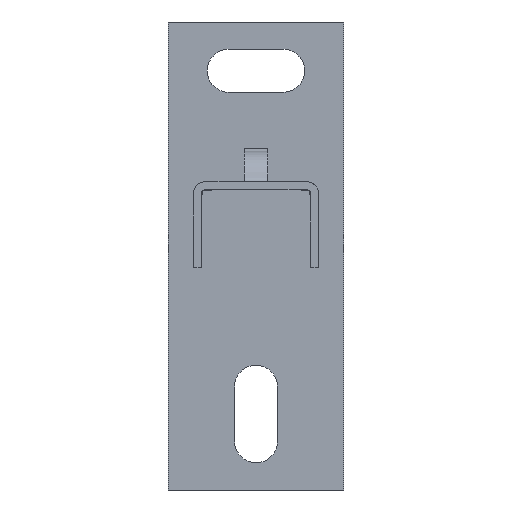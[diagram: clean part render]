
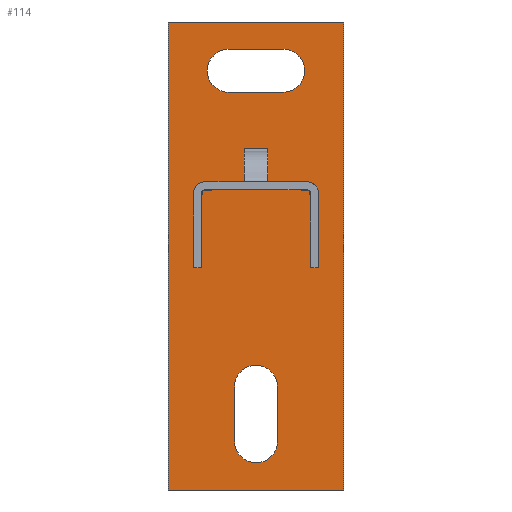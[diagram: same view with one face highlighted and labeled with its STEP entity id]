
A CAD part, front view. The second image highlights one B-rep face of the part: STEP entity #114.
In plain terms, the highlighted planar face has unit normal (0, -1, 0).
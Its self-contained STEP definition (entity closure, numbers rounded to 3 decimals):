
#15=FACE_BOUND($,#223,.T.);
#16=FACE_BOUND($,#224,.T.);
#23=PLANE($,#918);
#114=ADVANCED_FACE($,(#166,#15,#16),#23,.T.);
#166=FACE_OUTER_BOUND($,#222,.T.);
#222=EDGE_LOOP($,(#452,#453,#454,#455));
#223=EDGE_LOOP($,(#456,#457));
#224=EDGE_LOOP($,(#458,#459));
#452=ORIENTED_EDGE($,*,*,#608,.T.);
#453=ORIENTED_EDGE($,*,*,#619,.T.);
#454=ORIENTED_EDGE($,*,*,#618,.T.);
#455=ORIENTED_EDGE($,*,*,#617,.T.);
#456=ORIENTED_EDGE($,*,*,#609,.T.);
#457=ORIENTED_EDGE($,*,*,#627,.T.);
#458=ORIENTED_EDGE($,*,*,#610,.T.);
#459=ORIENTED_EDGE($,*,*,#630,.T.);
#608=EDGE_CURVE($,#704,#712,#806,.T.);
#609=EDGE_CURVE($,#705,#716,#886,.T.);
#610=EDGE_CURVE($,#706,#718,#887,.T.);
#617=EDGE_CURVE($,#710,#704,#811,.T.);
#618=EDGE_CURVE($,#711,#710,#812,.T.);
#619=EDGE_CURVE($,#712,#711,#813,.T.);
#627=EDGE_CURVE($,#716,#705,#890,.T.);
#630=EDGE_CURVE($,#718,#706,#892,.T.);
#704=VERTEX_POINT($,#2506);
#705=VERTEX_POINT($,#2507);
#706=VERTEX_POINT($,#2508);
#710=VERTEX_POINT($,#2512);
#711=VERTEX_POINT($,#2513);
#712=VERTEX_POINT($,#2514);
#716=VERTEX_POINT($,#2518);
#718=VERTEX_POINT($,#2520);
#806=B_SPLINE_CURVE_WITH_KNOTS($,1,(#2356,#2357),.UNSPECIFIED.,.F.,.F.,(2,
2),(0.,45.),.UNSPECIFIED.);
#811=B_SPLINE_CURVE_WITH_KNOTS($,1,(#2394,#2395),.UNSPECIFIED.,.F.,.F.,(2,
2),(210.,330.),.UNSPECIFIED.);
#812=B_SPLINE_CURVE_WITH_KNOTS($,1,(#2396,#2397),.UNSPECIFIED.,.F.,.F.,(2,
2),(165.,210.),.UNSPECIFIED.);
#813=B_SPLINE_CURVE_WITH_KNOTS($,1,(#2398,#2399),.UNSPECIFIED.,.F.,.F.,(2,
2),(45.,165.),.UNSPECIFIED.);
#886=(
BOUNDED_CURVE()
B_SPLINE_CURVE(2,(#2358,#2359,#2360,#2361,#2362,#2363,#2364),.UNSPECIFIED.,
.F.,.F.)
B_SPLINE_CURVE_WITH_KNOTS((3,2,2,3),(-111.115,-97.115,
-88.476,-79.836),.UNSPECIFIED.)
CURVE()
GEOMETRIC_REPRESENTATION_ITEM()
RATIONAL_B_SPLINE_CURVE((1.,1.,1.,0.707,1.,0.707,
1.))
REPRESENTATION_ITEM($)
);
#887=(
BOUNDED_CURVE()
B_SPLINE_CURVE(2,(#2365,#2366,#2367,#2368,#2369,#2370,#2371),.UNSPECIFIED.,
.F.,.F.)
B_SPLINE_CURVE_WITH_KNOTS((3,2,2,3),(-111.115,-97.115,
-88.476,-79.836),.UNSPECIFIED.)
CURVE()
GEOMETRIC_REPRESENTATION_ITEM()
RATIONAL_B_SPLINE_CURVE((1.,1.,1.,0.707,1.,0.707,
1.))
REPRESENTATION_ITEM($)
);
#890=(
BOUNDED_CURVE()
B_SPLINE_CURVE(2,(#2414,#2415,#2416,#2417,#2418,#2419,#2420),.UNSPECIFIED.,
.F.,.F.)
B_SPLINE_CURVE_WITH_KNOTS((3,2,2,3),(-79.836,-65.836,
-57.197,-48.558),.UNSPECIFIED.)
CURVE()
GEOMETRIC_REPRESENTATION_ITEM()
RATIONAL_B_SPLINE_CURVE((1.,1.,1.,0.707,1.,0.707,
1.))
REPRESENTATION_ITEM($)
);
#892=(
BOUNDED_CURVE()
B_SPLINE_CURVE(2,(#2430,#2431,#2432,#2433,#2434,#2435,#2436),.UNSPECIFIED.,
.F.,.F.)
B_SPLINE_CURVE_WITH_KNOTS((3,2,2,3),(-79.836,-65.836,
-57.197,-48.558),.UNSPECIFIED.)
CURVE()
GEOMETRIC_REPRESENTATION_ITEM()
RATIONAL_B_SPLINE_CURVE((1.,1.,1.,0.707,1.,0.707,
1.))
REPRESENTATION_ITEM($)
);
#918=AXIS2_PLACEMENT_3D($,#2444,#931,$);
#931=DIRECTION($,(0.,-1.,0.));
#2356=CARTESIAN_POINT($,(-22.5,0.,-120.));
#2357=CARTESIAN_POINT($,(22.5,0.,-120.));
#2358=CARTESIAN_POINT($,(-7.,0.,-7.));
#2359=CARTESIAN_POINT($,(0.,0.,-7.));
#2360=CARTESIAN_POINT($,(7.,0.,-7.));
#2361=CARTESIAN_POINT($,(12.5,0.,-7.));
#2362=CARTESIAN_POINT($,(12.5,0.,-12.5));
#2363=CARTESIAN_POINT($,(12.5,0.,-18.));
#2364=CARTESIAN_POINT($,(7.,0.,-18.));
#2365=CARTESIAN_POINT($,(5.5,0.,-93.5));
#2366=CARTESIAN_POINT($,(5.5,0.,-100.5));
#2367=CARTESIAN_POINT($,(5.5,0.,-107.5));
#2368=CARTESIAN_POINT($,(5.5,0.,-113.));
#2369=CARTESIAN_POINT($,(0.,0.,-113.));
#2370=CARTESIAN_POINT($,(-5.5,0.,-113.));
#2371=CARTESIAN_POINT($,(-5.5,0.,-107.5));
#2394=CARTESIAN_POINT($,(-22.5,0.,0.));
#2395=CARTESIAN_POINT($,(-22.5,0.,-120.));
#2396=CARTESIAN_POINT($,(22.5,0.,0.));
#2397=CARTESIAN_POINT($,(-22.5,0.,0.));
#2398=CARTESIAN_POINT($,(22.5,0.,-120.));
#2399=CARTESIAN_POINT($,(22.5,0.,0.));
#2414=CARTESIAN_POINT($,(7.,0.,-18.));
#2415=CARTESIAN_POINT($,(0.,0.,-18.));
#2416=CARTESIAN_POINT($,(-7.,0.,-18.));
#2417=CARTESIAN_POINT($,(-12.5,0.,-18.));
#2418=CARTESIAN_POINT($,(-12.5,0.,-12.5));
#2419=CARTESIAN_POINT($,(-12.5,0.,-7.));
#2420=CARTESIAN_POINT($,(-7.,0.,-7.));
#2430=CARTESIAN_POINT($,(-5.5,0.,-107.5));
#2431=CARTESIAN_POINT($,(-5.5,0.,-100.5));
#2432=CARTESIAN_POINT($,(-5.5,0.,-93.5));
#2433=CARTESIAN_POINT($,(-5.5,0.,-88.));
#2434=CARTESIAN_POINT($,(0.,0.,-88.));
#2435=CARTESIAN_POINT($,(5.5,0.,-88.));
#2436=CARTESIAN_POINT($,(5.5,0.,-93.5));
#2444=CARTESIAN_POINT($,(-22.5,0.,-120.));
#2506=CARTESIAN_POINT($,(-22.5,0.,-120.));
#2507=CARTESIAN_POINT($,(-7.,0.,-7.));
#2508=CARTESIAN_POINT($,(5.5,0.,-93.5));
#2512=CARTESIAN_POINT($,(-22.5,0.,0.));
#2513=CARTESIAN_POINT($,(22.5,0.,0.));
#2514=CARTESIAN_POINT($,(22.5,0.,-120.));
#2518=CARTESIAN_POINT($,(7.,0.,-18.));
#2520=CARTESIAN_POINT($,(-5.5,0.,-107.5));
